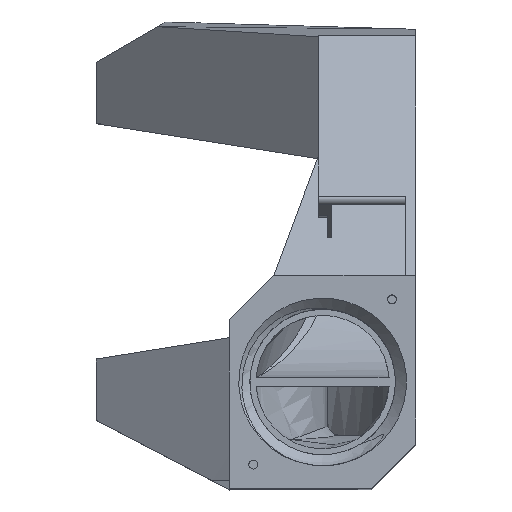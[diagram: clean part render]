
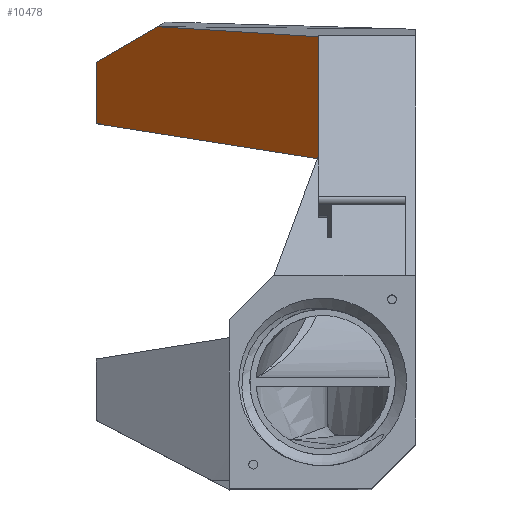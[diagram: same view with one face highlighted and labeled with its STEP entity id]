
A CAD part, top view. The second image highlights one B-rep face of the part: STEP entity #10478.
In plain terms, the highlighted planar face has unit normal (-0.632, -0.14, 0.762).
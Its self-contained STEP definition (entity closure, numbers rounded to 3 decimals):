
#895=LINE('',#15733,#1947);
#897=LINE('',#15737,#1949);
#994=LINE('',#16483,#2046);
#1018=LINE('',#16619,#2070);
#1947=VECTOR('',#12390,1000.);
#1949=VECTOR('',#12394,1000.);
#2046=VECTOR('',#12569,1000.);
#2070=VECTOR('',#12633,1000.);
#3565=ORIENTED_EDGE('',*,*,#6319,.T.);
#3566=ORIENTED_EDGE('',*,*,#6317,.T.);
#3567=ORIENTED_EDGE('',*,*,#6559,.T.);
#3568=ORIENTED_EDGE('',*,*,#6490,.F.);
#3569=ORIENTED_EDGE('',*,*,#6446,.T.);
#6317=EDGE_CURVE('',#7885,#7884,#895,.F.);
#6319=EDGE_CURVE('',#7886,#7885,#897,.T.);
#6446=EDGE_CURVE('',#7974,#7886,#994,.T.);
#6490=EDGE_CURVE('',#7974,#7997,#1018,.T.);
#6559=EDGE_CURVE('',#7884,#7997,#8491,.F.);
#7884=VERTEX_POINT('',#15732);
#7885=VERTEX_POINT('',#15734);
#7886=VERTEX_POINT('',#15738);
#7974=VERTEX_POINT('',#16479);
#7997=VERTEX_POINT('',#16612);
#8491=B_SPLINE_CURVE_WITH_KNOTS('',1,(#17566,#17567),.UNSPECIFIED.,.F.,
 .F.,(2,2),(0.,1.),.PIECEWISE_BEZIER_KNOTS.);
#8810=EDGE_LOOP('',(#3565,#3566,#3567,#3568,#3569));
#9464=FACE_BOUND('',#8810,.T.);
#10025=PLANE('',#11192);
#10478=ADVANCED_FACE('',(#9464),#10025,.T.);
#11192=AXIS2_PLACEMENT_3D('',#17565,#12731,#12732);
#12390=DIRECTION('',(0.,-0.984,-0.181));
#12394=DIRECTION('',(0.775,-0.123,0.62));
#12569=DIRECTION('',(0.,-0.984,-0.181));
#12633=DIRECTION('',(0.673,0.388,0.63));
#12731=DIRECTION('',(-0.632,-0.14,0.762));
#12732=DIRECTION('',(-0.769,0.,-0.639));
#15732=CARTESIAN_POINT('',(525.05,-27.5,-47.476));
#15733=CARTESIAN_POINT('',(525.05,-26.251,-47.247));
#15734=CARTESIAN_POINT('',(525.05,-41.237,-49.998));
#15737=CARTESIAN_POINT('',(500.05,-37.26,-70.019));
#15738=CARTESIAN_POINT('',(500.05,-37.26,-70.019));
#16479=CARTESIAN_POINT('',(500.05,-30.336,-68.747));
#16483=CARTESIAN_POINT('',(500.05,-30.336,-68.747));
#16612=CARTESIAN_POINT('',(506.964,-26.344,-62.275));
#16619=CARTESIAN_POINT('',(501.096,-29.732,-67.768));
#17565=CARTESIAN_POINT('',(519.149,-25.381,-51.985));
#17566=CARTESIAN_POINT('',(506.964,-26.344,-62.275));
#17567=CARTESIAN_POINT('',(525.05,-27.5,-47.476));
